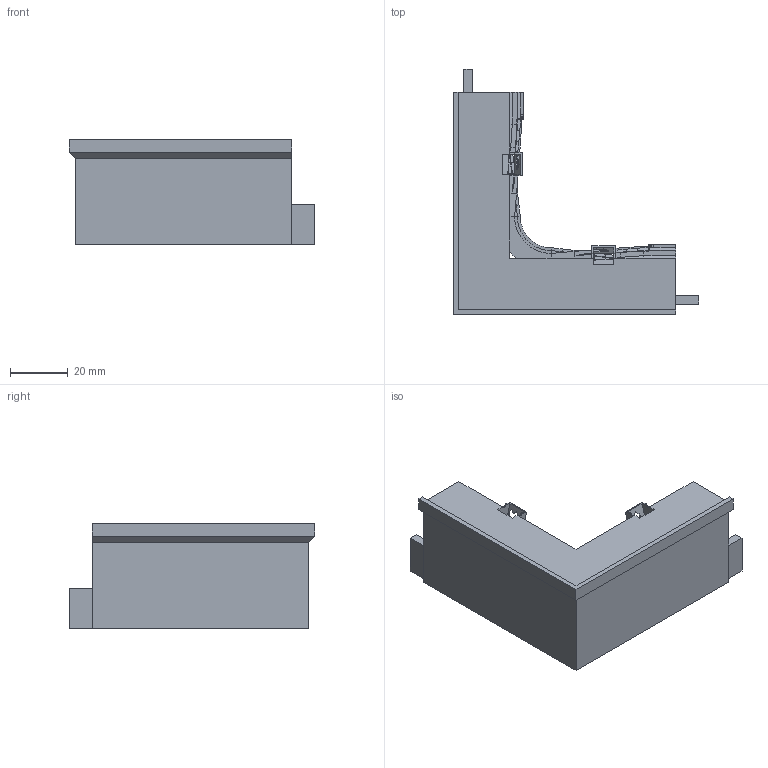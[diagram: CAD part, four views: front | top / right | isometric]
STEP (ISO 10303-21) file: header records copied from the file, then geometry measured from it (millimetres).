
FILE_DESCRIPTION(('Open CASCADE Model'),'2;1');
FILE_NAME('Open CASCADE Shape Model','2026-10-21T19:15:35',('Author'),( 'Open CASCADE'),'Open CASCADE STEP processor 8.0','build123d', 'Unknown');
FILE_SCHEMA(('AUTOMOTIVE_DESIGN { 1 0 10303 214 1 1 1 1 }'));
Products named in the file (1): SOLID
Bounding box: 85.1 x 85.1 x 36.5 mm (x, y, z)
Volume: 80102 mm3; surface area: 18778 mm2
Topology: 1 solids, 1 shells, 795 faces, 2107 edges, 1309 vertices
Faces by surface type: bspline 385, plane 381, extrusion 22, cylinder 7
Entity records: 54237 total; most frequent: CARTESIAN_POINT 17643, DIRECTION 4648, ORIENTED_EDGE 4214, PCURVE 4214, DEFINITIONAL_REPRESENTATION 4214, VECTOR 3819, LINE 3797, B_SPLINE_CURVE_WITH_KNOTS 2508
